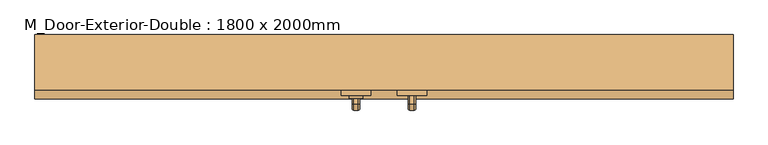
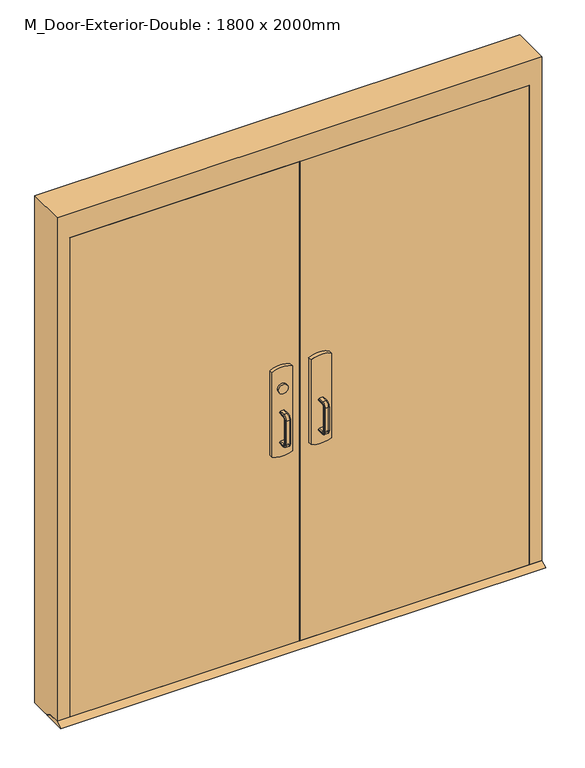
"""IFC4 building model written with IfcOpenShell, lengths in millimetres: door geometry, M_Door-Exterior-Double : 1800 x 2000mm."""

from ifc_helpers import new_model, si_unit, point, frame, frame_2d, origin, place, context, project, spatial, polyline, circle_curve, ellipse_curve, trimmed, segment, composite_curve, outline, extrude, faceted_brep, source, transform, mapped, element, save
from ifc_brep_helpers import plane_surface, cylinder_surface, revolved_surface, advanced_brep


def m_door_exterior_double_1800_x_2000mm_23919ed1(model_context):
    return source(origin(), model_context, "Body", "SolidModel", [
        extrude(outline(polyline([(-566.1333333, -112.75), (-76.2, -112.75), (-76.2, -119.1), (-566.1333333, -119.1), (-566.1333333, -112.75)])), frame((0.0, 0.0, 974.6), z_axis=(0.0, 0.0, 1.0), x_axis=(1.0, 0.0, 0.0)), (0.0, 0.0, 1.0), 50.8),
        advanced_brep(
        [(-12.7, -119.1, 1025.4), (-12.7, -119.1, 974.6), (-76.2, -119.1, 974.6), (-811.1, -119.1, 974.6), (-811.1, -119.1, 1025.4), (-76.2, -119.1, 1025.4), (-811.1, -150.85, 1025.4), (-811.1, -150.85, 974.6), (-76.2, -150.85, 974.6), (-76.2, -150.85, 911.1), (-57.15, -150.85, 892.05), (-31.75, -150.85, 892.05), (-12.7, -150.85, 911.1), (-12.7, -150.85, 1088.9), (-31.75, -150.85, 1107.95), (-57.15, -150.85, 1107.95), (-76.2, -150.85, 1088.9), (-76.2, -150.85, 1025.4), (-76.2, -122.2752467, 1025.4), (-12.7, -122.2752467, 1025.4), (-12.7, -127.2854269, 1088.9), (-12.7, -127.2854269, 911.1), (-12.7, -122.2752467, 974.6), (-76.2, -122.2752467, 974.6), (-76.2, -127.2854269, 1088.9), (-76.2, -127.2854269, 911.1), (-31.75, -128.788481, 1107.95), (-57.15, -128.788481, 1107.95), (-57.15, -128.788481, 892.05), (-31.75, -128.788481, 892.05)],
        [
            (0, 1),
            (1, 2),
            (2, 3),
            (3, 4),
            (4, 5),
            (5, 0),
            (6, 7),
            (7, 8),
            (8, 9),
            (9, 10, circle_curve(frame((-57.15, -150.85, 911.1), z_axis=(0.0, -1.0, 0.0), x_axis=(-1.0, 0.0, 0.0)), 19.05)),
            (10, 11),
            (11, 12, circle_curve(frame((-31.75, -150.85, 911.1), z_axis=(0.0, -1.0, 0.0), x_axis=(-1.0, 0.0, 0.0)), 19.05)),
            (12, 13),
            (13, 14, circle_curve(frame((-31.75, -150.85, 1088.9), z_axis=(0.0, -1.0, 0.0), x_axis=(-1.0, 0.0, 0.0)), 19.05)),
            (14, 15),
            (15, 16, circle_curve(frame((-57.15, -150.85, 1088.9), z_axis=(0.0, -1.0, 0.0), x_axis=(-1.0, 0.0, 0.0)), 19.05)),
            (16, 17),
            (17, 6),
            (4, 6),
            (17, 18),
            (18, 19),
            (19, 0),
            (19, 20),
            (20, 13),
            (12, 21),
            (21, 22),
            (22, 1),
            (7, 3),
            (22, 23),
            (23, 8),
            (16, 24),
            (24, 18),
            (23, 25),
            (25, 9),
            (14, 26),
            (26, 27),
            (27, 15),
            (10, 28),
            (28, 29),
            (29, 11),
            (25, 28, ellipse_curve(frame((-57.15, -127.2854269, 911.1), z_axis=(0.0, -0.9969018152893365, 0.07865602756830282), x_axis=(0.0, 0.07865602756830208, 0.9969018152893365)), 19.1092038, 19.05)),
            (27, 24, ellipse_curve(frame((-57.15, -127.2854269, 1088.9), z_axis=(0.0, -0.9969018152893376, -0.07865602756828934), x_axis=(0.0, 0.078656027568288, -0.9969018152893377)), 19.1092038, 19.05)),
            (20, 26, ellipse_curve(frame((-31.75, -127.2854269, 1088.9), z_axis=(0.0, -0.9969018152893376, -0.07865602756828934), x_axis=(0.0, 0.078656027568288, -0.9969018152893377)), 19.1092038, 19.05)),
            (29, 21, ellipse_curve(frame((-31.75, -127.2854269, 911.1), z_axis=(0.0, -0.9969018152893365, 0.07865602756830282), x_axis=(0.0, 0.07865602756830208, 0.9969018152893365)), 19.1092038, 19.05)),
        ],
        [
            plane_surface(frame((-12.7, -119.1, 1025.4), z_axis=(0.0, 1.0, 0.0), x_axis=(1.0, 0.0, 0.0))),
            plane_surface(frame((-12.7, -150.85, 1025.4), z_axis=(0.0, -1.0, 0.0), x_axis=(-1.0, 0.0, 0.0))),
            plane_surface(frame((-811.1, -119.1, 1025.4), z_axis=(0.0, 0.0, 1.0), x_axis=(0.0, -1.0, 0.0))),
            plane_surface(frame((-12.7, -119.1, 1025.4), z_axis=(1.0, 0.0, 0.0), x_axis=(0.0, -1.0, 0.0))),
            plane_surface(frame((-12.7, -119.1, 974.6), z_axis=(0.0, 0.0, -1.0), x_axis=(0.0, -1.0, 0.0))),
            plane_surface(frame((-811.1, -119.1, 974.6), z_axis=(-1.0, 0.0, 0.0), x_axis=(0.0, -1.0, 0.0))),
            plane_surface(frame((-76.2, -122.2752467, 911.1), z_axis=(-1.0, 0.0, 0.0), x_axis=(0.0, -1.0, 0.0))),
            plane_surface(frame((-57.15, -122.2752467, 1107.95), z_axis=(0.0, 0.0, 1.0), x_axis=(0.0, -1.0, 0.0))),
            plane_surface(frame((-31.75, -122.2752467, 892.05), z_axis=(0.0, 0.0, -1.0), x_axis=(0.0, -1.0, 0.0))),
            cylinder_surface(frame((-57.15, -150.85, 911.1), z_axis=(0.0, 1.0, 0.0), x_axis=(-1.0, 0.0, 0.0)), 19.05),
            cylinder_surface(frame((-57.15, -150.85, 1088.9), z_axis=(0.0, 1.0, 0.0), x_axis=(-1.0, 0.0, 0.0)), 19.05),
            cylinder_surface(frame((-31.75, -150.85, 1088.9), z_axis=(0.0, 1.0, 0.0), x_axis=(-1.0, 0.0, 0.0)), 19.05),
            cylinder_surface(frame((-31.75, -150.85, 911.1), z_axis=(0.0, 1.0, 0.0), x_axis=(-1.0, 0.0, 0.0)), 19.05),
            plane_surface(frame((-76.2, -122.2752467, 1025.4), z_axis=(0.0, 0.9969018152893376, 0.07865602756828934), x_axis=(1.0, 0.0, 0.0))),
            plane_surface(frame((-76.2, -128.788481, 892.05), z_axis=(0.0, 0.9969018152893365, -0.07865602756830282), x_axis=(1.0, 0.0, 0.0))),
        ],
        [
            (0, [[1, 2, 3, 4, 5, 6]]),
            (1, [[7, 8, 9, 10, 11, 12, 13, 14, 15, 16, 17, 18]]),
            (2, [[19, -18, 20, 21, 22, -6, -5]]),
            (3, [[-1, -22, 23, 24, -13, 25, 26, 27]]),
            (4, [[28, -3, -2, -27, 29, 30, -8]]),
            (5, [[-4, -28, -7, -19]]),
            (6, [[-17, 31, 32, -20]]),
            (6, [[-9, -30, 33, 34]]),
            (7, [[-15, 35, 36, 37]]),
            (8, [[-11, 38, 39, 40]]),
            (9, [[-10, -34, 41, -38]]),
            (10, [[-16, -37, 42, -31]]),
            (11, [[-14, -24, 43, -35]]),
            (12, [[-12, -40, 44, -25]]),
            (13, [[-21, -32, -42, -36, -43, -23]]),
            (14, [[-26, -44, -39, -41, -33, -29]]),
        ],
    ),
        extrude(outline(polyline([(-195.85, 15.0), (-150.85, 15.0), (-125.45, 0.0), (-221.25, 0.0), (-195.85, 15.0)])), frame((-950.0, 0.0, 0.0), z_axis=(1.0, 0.0, 0.0), x_axis=(0.0, 1.0, 0.0)), (0.0, 0.0, 1.0), 1900.0),
        extrude(outline(polyline([(566.1333333, -112.75), (566.1333333, -119.1), (76.2, -119.1), (76.2, -112.75), (566.1333333, -112.75)])), frame((0.0, 0.0, 974.6), z_axis=(0.0, 0.0, 1.0), x_axis=(1.0, 0.0, 0.0)), (0.0, 0.0, 1.0), 50.8),
        advanced_brep(
        [(12.7, -119.1, 1025.4), (76.2, -119.1, 1025.4), (811.1, -119.1, 1025.4), (811.1, -119.1, 974.6), (76.2, -119.1, 974.6), (12.7, -119.1, 974.6), (811.1, -150.85, 1025.4), (76.2, -150.85, 1025.4), (76.2, -150.85, 1088.9), (57.15, -150.85, 1107.95), (31.75, -150.85, 1107.95), (12.7, -150.85, 1088.9), (12.7, -150.85, 911.1), (31.75, -150.85, 892.05), (57.15, -150.85, 892.05), (76.2, -150.85, 911.1), (76.2, -150.85, 974.6), (811.1, -150.85, 974.6), (12.7, -122.2752467, 1025.4), (76.2, -122.2752467, 1025.4), (12.7, -122.2752467, 974.6), (12.7, -127.2854269, 911.1), (12.7, -127.2854269, 1088.9), (76.2, -122.2752467, 974.6), (76.2, -127.2854269, 1088.9), (76.2, -127.2854269, 911.1), (57.15, -128.788481, 1107.95), (31.75, -128.788481, 1107.95), (31.75, -128.788481, 892.05), (57.15, -128.788481, 892.05)],
        [
            (0, 1),
            (1, 2),
            (2, 3),
            (3, 4),
            (4, 5),
            (5, 0),
            (6, 7),
            (7, 8),
            (8, 9, circle_curve(frame((57.15, -150.85, 1088.9), z_axis=(0.0, -1.0, 0.0), x_axis=(1.0, 0.0, 0.0)), 19.05)),
            (9, 10),
            (10, 11, circle_curve(frame((31.75, -150.85, 1088.9), z_axis=(0.0, -1.0, 0.0), x_axis=(1.0, 0.0, 0.0)), 19.05)),
            (11, 12),
            (12, 13, circle_curve(frame((31.75, -150.85, 911.1), z_axis=(0.0, -1.0, 0.0), x_axis=(1.0, 0.0, 0.0)), 19.05)),
            (13, 14),
            (14, 15, circle_curve(frame((57.15, -150.85, 911.1), z_axis=(0.0, -1.0, 0.0), x_axis=(1.0, 0.0, 0.0)), 19.05)),
            (15, 16),
            (16, 17),
            (17, 6),
            (0, 18),
            (18, 19),
            (19, 7),
            (6, 2),
            (5, 20),
            (20, 21),
            (21, 12),
            (11, 22),
            (22, 18),
            (16, 23),
            (23, 20),
            (3, 17),
            (19, 24),
            (24, 8),
            (15, 25),
            (25, 23),
            (9, 26),
            (26, 27),
            (27, 10),
            (13, 28),
            (28, 29),
            (29, 14),
            (29, 25, ellipse_curve(frame((57.15, -127.2854269, 911.1), z_axis=(0.0, -0.9969018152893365, 0.07865602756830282), x_axis=(0.0, 0.07865602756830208, 0.9969018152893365)), 19.1092038, 19.05)),
            (24, 26, ellipse_curve(frame((57.15, -127.2854269, 1088.9), z_axis=(0.0, -0.9969018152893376, -0.07865602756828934), x_axis=(0.0, 0.078656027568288, -0.9969018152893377)), 19.1092038, 19.05)),
            (27, 22, ellipse_curve(frame((31.75, -127.2854269, 1088.9), z_axis=(0.0, -0.9969018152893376, -0.07865602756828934), x_axis=(0.0, 0.078656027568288, -0.9969018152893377)), 19.1092038, 19.05)),
            (21, 28, ellipse_curve(frame((31.75, -127.2854269, 911.1), z_axis=(0.0, -0.9969018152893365, 0.07865602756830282), x_axis=(0.0, 0.07865602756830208, 0.9969018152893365)), 19.1092038, 19.05)),
        ],
        [
            plane_surface(frame((12.7, -119.1, 1025.4), z_axis=(0.0, 1.0, 0.0), x_axis=(-1.0, 0.0, 0.0))),
            plane_surface(frame((12.7, -150.85, 1025.4), z_axis=(0.0, -1.0, 0.0), x_axis=(1.0, 0.0, 0.0))),
            plane_surface(frame((811.1, -119.1, 1025.4), z_axis=(0.0, 0.0, 1.0), x_axis=(0.0, -1.0, 0.0))),
            plane_surface(frame((12.7, -119.1, 1025.4), z_axis=(-1.0, 0.0, 0.0), x_axis=(0.0, -1.0, 0.0))),
            plane_surface(frame((12.7, -119.1, 974.6), z_axis=(0.0, 0.0, -1.0), x_axis=(0.0, -1.0, 0.0))),
            plane_surface(frame((811.1, -119.1, 974.6), z_axis=(1.0, 0.0, 0.0), x_axis=(0.0, -1.0, 0.0))),
            plane_surface(frame((76.2, -122.2752467, 911.1), z_axis=(1.0, 0.0, 0.0), x_axis=(0.0, -1.0, 0.0))),
            plane_surface(frame((57.15, -122.2752467, 1107.95), z_axis=(0.0, 0.0, 1.0), x_axis=(0.0, -1.0, 0.0))),
            plane_surface(frame((31.75, -122.2752467, 892.05), z_axis=(0.0, 0.0, -1.0), x_axis=(0.0, -1.0, 0.0))),
            cylinder_surface(frame((57.15, -150.85, 911.1), z_axis=(0.0, 1.0, 0.0), x_axis=(1.0, 0.0, 0.0)), 19.05),
            cylinder_surface(frame((57.15, -150.85, 1088.9), z_axis=(0.0, 1.0, 0.0), x_axis=(1.0, 0.0, 0.0)), 19.05),
            cylinder_surface(frame((31.75, -150.85, 1088.9), z_axis=(0.0, 1.0, 0.0), x_axis=(1.0, 0.0, 0.0)), 19.05),
            cylinder_surface(frame((31.75, -150.85, 911.1), z_axis=(0.0, 1.0, 0.0), x_axis=(1.0, 0.0, 0.0)), 19.05),
            plane_surface(frame((76.2, -122.2752467, 1025.4), z_axis=(0.0, 0.9969018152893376, 0.07865602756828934), x_axis=(-1.0, 0.0, 0.0))),
            plane_surface(frame((76.2, -128.788481, 892.05), z_axis=(0.0, 0.9969018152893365, -0.07865602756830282), x_axis=(-1.0, 0.0, 0.0))),
        ],
        [
            (0, [[1, 2, 3, 4, 5, 6]]),
            (1, [[7, 8, 9, 10, 11, 12, 13, 14, 15, 16, 17, 18]]),
            (2, [[-2, -1, 19, 20, 21, -7, 22]]),
            (3, [[23, 24, 25, -12, 26, 27, -19, -6]]),
            (4, [[-17, 28, 29, -23, -5, -4, 30]]),
            (5, [[-22, -18, -30, -3]]),
            (6, [[-21, 31, 32, -8]]),
            (6, [[33, 34, -28, -16]]),
            (7, [[35, 36, 37, -10]]),
            (8, [[38, 39, 40, -14]]),
            (9, [[-40, 41, -33, -15]]),
            (10, [[-32, 42, -35, -9]]),
            (11, [[-37, 43, -26, -11]]),
            (12, [[-25, 44, -38, -13]]),
            (13, [[-27, -43, -36, -42, -31, -20]]),
            (14, [[-29, -34, -41, -39, -44, -24]]),
        ],
    ),
        advanced_brep(
        [(66.2, -208.55, 1001.190625), (69.771875, -208.55, 1004.7625), (82.628125, -208.55, 1004.7625), (86.2, -208.55, 1001.190625), (86.2, -208.55, 998.8090406), (82.6284594, -208.55, 995.2375), (69.771875, -208.55, 995.2375), (66.2, -208.55, 998.809375), (66.2, -208.55, 874.609375), (66.2, -208.55, 876.990625), (69.771875, -208.55, 880.5625), (82.6284594, -208.55, 880.5625), (86.2, -208.55, 876.9909594), (86.2, -208.55, 874.609375), (82.628125, -208.55, 871.0375), (69.771875, -208.55, 871.0375), (66.2, -233.95, 998.809375), (66.2, -245.459375, 987.3), (66.2, -245.459375, 888.5), (66.2, -233.95, 876.990625), (66.2, -233.95, 874.609375), (66.2, -247.840625, 888.5), (66.2, -247.840625, 987.3), (66.2, -233.95, 1001.190625), (69.771875, -233.95, 995.2375), (82.6284594, -233.95, 995.2375), (86.2, -233.95, 998.8090406), (86.2, -233.95, 1001.190625), (86.2, -247.840625, 987.3), (86.2, -247.840625, 888.5), (86.2, -233.95, 874.609375), (86.2, -233.95, 876.9909594), (86.2, -245.4590406, 888.5), (86.2, -245.4590406, 987.3), (82.628125, -233.95, 1004.7625), (69.771875, -233.95, 1004.7625), (69.771875, -241.8875, 987.3), (82.6284594, -241.8875, 987.3), (82.628125, -251.4125, 987.3), (69.771875, -251.4125, 987.3), (69.771875, -241.8875, 888.5), (82.6284594, -241.8875, 888.5), (82.628125, -251.4125, 888.5), (69.771875, -251.4125, 888.5), (69.771875, -233.95, 880.5625), (82.6284594, -233.95, 880.5625), (82.628125, -233.95, 871.0375), (69.771875, -233.95, 871.0375)],
        [
            (0, 1, circle_curve(frame((69.771875, -208.55, 1001.190625), z_axis=(0.0, 1.0, 0.0), x_axis=(0.0, 0.0, 1.0)), 3.571875)),
            (1, 2),
            (2, 3, circle_curve(frame((82.628125, -208.55, 1001.190625), z_axis=(0.0, 1.0, 0.0), x_axis=(0.0, 0.0, 1.0)), 3.571875)),
            (3, 4),
            (4, 5, circle_curve(frame((82.6284594, -208.55, 998.8090406), z_axis=(0.0, 1.0, 0.0), x_axis=(0.0, 0.0, 1.0)), 3.5715406)),
            (5, 6),
            (6, 7, circle_curve(frame((69.771875, -208.55, 998.809375), z_axis=(0.0, 1.0, 0.0), x_axis=(0.0, 0.0, 1.0)), 3.571875)),
            (7, 0),
            (8, 9),
            (9, 10, circle_curve(frame((69.771875, -208.55, 876.990625), z_axis=(0.0, 1.0, 0.0), x_axis=(0.0, 0.0, -1.0)), 3.571875)),
            (10, 11),
            (11, 12, circle_curve(frame((82.6284594, -208.55, 876.9909594), z_axis=(0.0, 1.0, 0.0), x_axis=(0.0, 0.0, -1.0)), 3.5715406)),
            (12, 13),
            (13, 14, circle_curve(frame((82.628125, -208.55, 874.609375), z_axis=(0.0, 1.0, 0.0), x_axis=(0.0, 0.0, -1.0)), 3.571875)),
            (14, 15),
            (15, 8, circle_curve(frame((69.771875, -208.55, 874.609375), z_axis=(0.0, 1.0, 0.0), x_axis=(0.0, 0.0, -1.0)), 3.571875)),
            (7, 16),
            (16, 17, circle_curve(frame((66.2, -233.95, 987.3), z_axis=(1.0, 0.0, 0.0), x_axis=(0.0, 0.0, 1.0)), 11.509375)),
            (17, 18),
            (18, 19, circle_curve(frame((66.2, -233.95, 888.5), z_axis=(1.0, 0.0, 0.0), x_axis=(0.0, -1.0, 0.0)), 11.509375)),
            (19, 9),
            (8, 20),
            (20, 21, circle_curve(frame((66.2, -233.95, 888.5), z_axis=(-1.0, 0.0, 0.0), x_axis=(0.0, -1.0, 0.0)), 13.890625)),
            (21, 22),
            (22, 23, circle_curve(frame((66.2, -233.95, 987.3), z_axis=(-1.0, 0.0, 0.0), x_axis=(0.0, 0.0, 1.0)), 13.890625)),
            (23, 0),
            (6, 24),
            (24, 16, circle_curve(frame((69.771875, -233.95, 998.809375), z_axis=(0.0, 1.0, 0.0), x_axis=(0.0, 0.0, 1.0)), 3.571875)),
            (5, 25),
            (25, 24),
            (4, 26),
            (26, 25, circle_curve(frame((82.6284594, -233.95, 998.8090406), z_axis=(0.0, 1.0, 0.0), x_axis=(0.0, 0.0, 1.0)), 3.5715406)),
            (3, 27),
            (27, 28, circle_curve(frame((86.2, -233.95, 987.3), z_axis=(1.0, 0.0, 0.0), x_axis=(0.0, 0.0, 1.0)), 13.890625)),
            (28, 29),
            (29, 30, circle_curve(frame((86.2, -233.95, 888.5), z_axis=(1.0, 0.0, 0.0), x_axis=(0.0, -1.0, 0.0)), 13.890625)),
            (30, 13),
            (12, 31),
            (31, 32, circle_curve(frame((86.2, -233.95, 888.5), z_axis=(-1.0, 0.0, 0.0), x_axis=(0.0, -1.0, 0.0)), 11.5090406)),
            (32, 33),
            (33, 26, circle_curve(frame((86.2, -233.95, 987.3), z_axis=(-1.0, 0.0, 0.0), x_axis=(0.0, 0.0, 1.0)), 11.5090406)),
            (2, 34),
            (34, 27, circle_curve(frame((82.628125, -233.95, 1001.190625), z_axis=(0.0, 1.0, 0.0), x_axis=(0.0, 0.0, 1.0)), 3.571875)),
            (1, 35),
            (35, 34),
            (23, 35, circle_curve(frame((69.771875, -233.95, 1001.190625), z_axis=(0.0, 1.0, 0.0), x_axis=(0.0, 0.0, 1.0)), 3.571875)),
            (36, 17, circle_curve(frame((69.771875, -245.459375, 987.3), z_axis=(0.0, 0.0, 1.0), x_axis=(0.0, -1.0, 0.0)), 3.571875)),
            (24, 36, circle_curve(frame((69.771875, -233.95, 987.3), z_axis=(1.0, 0.0, 0.0), x_axis=(0.0, 0.0, 1.0)), 7.9375)),
            (37, 36),
            (25, 37, circle_curve(frame((82.6284594, -233.95, 987.3), z_axis=(1.0, 0.0, 0.0), x_axis=(0.0, 0.0, 1.0)), 7.9375)),
            (33, 37, circle_curve(frame((82.6284594, -245.4590406, 987.3), z_axis=(0.0, 0.0, 1.0), x_axis=(0.0, -1.0, 0.0)), 3.5715406)),
            (38, 28, circle_curve(frame((82.628125, -247.840625, 987.3), z_axis=(0.0, 0.0, 1.0), x_axis=(0.0, -1.0, 0.0)), 3.571875)),
            (34, 38, circle_curve(frame((82.628125, -233.95, 987.3), z_axis=(1.0, 0.0, 0.0), x_axis=(0.0, 0.0, 1.0)), 17.4625)),
            (39, 38),
            (35, 39, circle_curve(frame((69.771875, -233.95, 987.3), z_axis=(1.0, 0.0, 0.0), x_axis=(0.0, 0.0, 1.0)), 17.4625)),
            (22, 39, circle_curve(frame((69.771875, -247.840625, 987.3), z_axis=(0.0, 0.0, 1.0), x_axis=(0.0, -1.0, 0.0)), 3.571875)),
            (36, 40),
            (40, 18, circle_curve(frame((69.771875, -245.459375, 888.5), z_axis=(0.0, 0.0, 1.0), x_axis=(0.0, -1.0, 0.0)), 3.571875)),
            (37, 41),
            (41, 40),
            (32, 41, circle_curve(frame((82.6284594, -245.4590406, 888.5), z_axis=(0.0, 0.0, 1.0), x_axis=(0.0, -1.0, 0.0)), 3.5715406)),
            (38, 42),
            (42, 29, circle_curve(frame((82.628125, -247.840625, 888.5), z_axis=(0.0, 0.0, 1.0), x_axis=(0.0, -1.0, 0.0)), 3.571875)),
            (39, 43),
            (43, 42),
            (21, 43, circle_curve(frame((69.771875, -247.840625, 888.5), z_axis=(0.0, 0.0, 1.0), x_axis=(0.0, -1.0, 0.0)), 3.571875)),
            (44, 19, circle_curve(frame((69.771875, -233.95, 876.990625), z_axis=(0.0, -1.0, 0.0), x_axis=(0.0, 0.0, -1.0)), 3.571875)),
            (40, 44, circle_curve(frame((69.771875, -233.95, 888.5), z_axis=(1.0, 0.0, 0.0), x_axis=(0.0, -1.0, 0.0)), 7.9375)),
            (45, 44),
            (41, 45, circle_curve(frame((82.6284594, -233.95, 888.5), z_axis=(1.0, 0.0, 0.0), x_axis=(0.0, -1.0, 0.0)), 7.9375)),
            (31, 45, circle_curve(frame((82.6284594, -233.95, 876.9909594), z_axis=(0.0, -1.0, 0.0), x_axis=(0.0, 0.0, -1.0)), 3.5715406)),
            (46, 30, circle_curve(frame((82.628125, -233.95, 874.609375), z_axis=(0.0, -1.0, 0.0), x_axis=(0.0, 0.0, -1.0)), 3.571875)),
            (42, 46, circle_curve(frame((82.628125, -233.95, 888.5), z_axis=(1.0, 0.0, 0.0), x_axis=(0.0, -1.0, 0.0)), 17.4625)),
            (47, 46),
            (43, 47, circle_curve(frame((69.771875, -233.95, 888.5), z_axis=(1.0, 0.0, 0.0), x_axis=(0.0, -1.0, 0.0)), 17.4625)),
            (20, 47, circle_curve(frame((69.771875, -233.95, 874.609375), z_axis=(0.0, -1.0, 0.0), x_axis=(0.0, 0.0, -1.0)), 3.571875)),
            (44, 10),
            (45, 11),
            (46, 14),
            (47, 15),
        ],
        [
            plane_surface(frame((76.2, -208.55, 1000.0), z_axis=(0.0, 1.0, 0.0), x_axis=(1.0, 0.0, 0.0))),
            plane_surface(frame((76.2, -208.55, 875.8), z_axis=(0.0, 1.0, 0.0), x_axis=(1.0, 0.0, 0.0))),
            plane_surface(frame((66.2, -208.55, 1001.190625), z_axis=(-1.0, 0.0, 0.0), x_axis=(0.0, -1.0, 0.0))),
            cylinder_surface(frame((69.771875, -208.55, 998.809375), z_axis=(0.0, 1.0, 0.0), x_axis=(0.0, 0.0, 1.0)), 3.571875),
            plane_surface(frame((69.771875, -208.55, 995.2375), z_axis=(0.0, 0.0, -1.0), x_axis=(0.0, -1.0, 0.0))),
            cylinder_surface(frame((82.6284594, -208.55, 998.8090406), z_axis=(0.0, 1.0, 0.0), x_axis=(0.0, 0.0, 1.0)), 3.5715406),
            plane_surface(frame((86.2, -208.55, 998.8090406), z_axis=(1.0, 0.0, 0.0), x_axis=(0.0, -1.0, 0.0))),
            cylinder_surface(frame((82.628125, -208.55, 1001.190625), z_axis=(0.0, 1.0, 0.0), x_axis=(0.0, 0.0, 1.0)), 3.571875),
            plane_surface(frame((82.628125, -208.55, 1004.7625), z_axis=(0.0, 0.0, 1.0), x_axis=(0.0, -1.0, 0.0))),
            cylinder_surface(frame((69.771875, -208.55, 1001.190625), z_axis=(0.0, 1.0, 0.0), x_axis=(0.0, 0.0, 1.0)), 3.571875),
            revolved_surface(trimmed(ellipse_curve(frame((69.771875, -233.95, 998.809375), z_axis=(0.0, -1.0, 0.0), x_axis=(0.0, 0.0, 1.0)), 3.571875, 3.571875), [point((66.2, -233.95, 998.809375))], [point((69.771875, -233.95, 995.2375))], True, "CARTESIAN"), (76.2, -233.95, 987.3), (-1.0, 0.0, 0.0)),
            revolved_surface(polyline([(69.771875, -233.95, 995.2375), (82.6284594, -233.95, 995.2375)]), (76.2, -233.95, 987.3), (-1.0, 0.0, 0.0)),
            revolved_surface(trimmed(ellipse_curve(frame((82.6284594, -233.95, 998.8090406), z_axis=(0.0, -1.0, 0.0), x_axis=(0.0, 0.0, 1.0)), 3.5715406, 3.5715406), [point((82.6284594, -233.95, 995.2375))], [point((86.2, -233.95, 998.8090406))], True, "CARTESIAN"), (76.2, -233.95, 987.3), (-1.0, 0.0, 0.0)),
            revolved_surface(trimmed(ellipse_curve(frame((82.628125, -233.95, 1001.190625), z_axis=(0.0, -1.0, 0.0), x_axis=(0.0, 0.0, 1.0)), 3.571875, 3.571875), [point((86.2, -233.95, 1001.190625))], [point((82.628125, -233.95, 1004.7625))], True, "CARTESIAN"), (76.2, -233.95, 987.3), (-1.0, 0.0, 0.0)),
            cylinder_surface(frame((76.2, -233.95, 987.3), z_axis=(-1.0, 0.0, 0.0), x_axis=(0.0, 0.0, 1.0)), 17.4625),
            revolved_surface(trimmed(ellipse_curve(frame((69.771875, -233.95, 1001.190625), z_axis=(0.0, -1.0, 0.0), x_axis=(0.0, 0.0, 1.0)), 3.571875, 3.571875), [point((69.771875, -233.95, 1004.7625))], [point((66.2, -233.95, 1001.190625))], True, "CARTESIAN"), (76.2, -233.95, 987.3), (-1.0, 0.0, 0.0)),
            cylinder_surface(frame((69.771875, -245.459375, 987.3), z_axis=(0.0, 0.0, 1.0), x_axis=(0.0, -1.0, 0.0)), 3.571875),
            plane_surface(frame((69.771875, -241.8875, 987.3), z_axis=(0.0, 1.0, 0.0), x_axis=(0.0, 0.0, -1.0))),
            cylinder_surface(frame((82.6284594, -245.4590406, 987.3), z_axis=(0.0, 0.0, 1.0), x_axis=(0.0, -1.0, 0.0)), 3.5715406),
            cylinder_surface(frame((82.628125, -247.840625, 987.3), z_axis=(0.0, 0.0, 1.0), x_axis=(0.0, -1.0, 0.0)), 3.571875),
            plane_surface(frame((82.628125, -251.4125, 987.3), z_axis=(0.0, -1.0, 0.0), x_axis=(0.0, 0.0, -1.0))),
            cylinder_surface(frame((69.771875, -247.840625, 987.3), z_axis=(0.0, 0.0, 1.0), x_axis=(0.0, -1.0, 0.0)), 3.571875),
            revolved_surface(trimmed(ellipse_curve(frame((69.771875, -245.459375, 888.5), z_axis=(0.0, 0.0, -1.0), x_axis=(0.0, -1.0, 0.0)), 3.571875, 3.571875), [point((66.2, -245.459375, 888.5))], [point((69.771875, -241.8875, 888.5))], True, "CARTESIAN"), (76.2, -233.95, 888.5), (-1.0, 0.0, 0.0)),
            revolved_surface(polyline([(69.771875, -241.8875, 888.5), (82.6284594, -241.8875, 888.5)]), (76.2, -233.95, 888.5), (-1.0, 0.0, 0.0)),
            revolved_surface(trimmed(ellipse_curve(frame((82.6284594, -245.4590406, 888.5), z_axis=(0.0, 0.0, -1.0), x_axis=(0.0, -1.0, 0.0)), 3.5715406, 3.5715406), [point((82.6284594, -241.8875, 888.5))], [point((86.2, -245.4590406, 888.5))], True, "CARTESIAN"), (76.2, -233.95, 888.5), (-1.0, 0.0, 0.0)),
            revolved_surface(trimmed(ellipse_curve(frame((82.628125, -247.840625, 888.5), z_axis=(0.0, 0.0, -1.0), x_axis=(0.0, -1.0, 0.0)), 3.571875, 3.571875), [point((86.2, -247.840625, 888.5))], [point((82.628125, -251.4125, 888.5))], True, "CARTESIAN"), (76.2, -233.95, 888.5), (-1.0, 0.0, 0.0)),
            cylinder_surface(frame((76.2, -233.95, 888.5), z_axis=(-1.0, 0.0, 0.0), x_axis=(0.0, -1.0, 0.0)), 17.4625),
            revolved_surface(trimmed(ellipse_curve(frame((69.771875, -247.840625, 888.5), z_axis=(0.0, 0.0, -1.0), x_axis=(0.0, -1.0, 0.0)), 3.571875, 3.571875), [point((69.771875, -251.4125, 888.5))], [point((66.2, -247.840625, 888.5))], True, "CARTESIAN"), (76.2, -233.95, 888.5), (-1.0, 0.0, 0.0)),
            cylinder_surface(frame((69.771875, -233.95, 876.990625), z_axis=(0.0, -1.0, 0.0), x_axis=(0.0, 0.0, -1.0)), 3.571875),
            plane_surface(frame((69.771875, -233.95, 880.5625), z_axis=(0.0, 0.0, 1.0), x_axis=(0.0, 1.0, 0.0))),
            cylinder_surface(frame((82.6284594, -233.95, 876.9909594), z_axis=(0.0, -1.0, 0.0), x_axis=(0.0, 0.0, -1.0)), 3.5715406),
            cylinder_surface(frame((82.628125, -233.95, 874.609375), z_axis=(0.0, -1.0, 0.0), x_axis=(0.0, 0.0, -1.0)), 3.571875),
            plane_surface(frame((82.628125, -233.95, 871.0375), z_axis=(0.0, 0.0, -1.0), x_axis=(0.0, 1.0, 0.0))),
            cylinder_surface(frame((69.771875, -233.95, 874.609375), z_axis=(0.0, -1.0, 0.0), x_axis=(0.0, 0.0, -1.0)), 3.571875),
        ],
        [
            (0, [[1, 2, 3, 4, 5, 6, 7, 8]]),
            (1, [[9, 10, 11, 12, 13, 14, 15, 16]]),
            (2, [[17, 18, 19, 20, 21, -9, 22, 23, 24, 25, 26, -8]]),
            (3, [[27, 28, -17, -7]]),
            (4, [[29, 30, -27, -6]]),
            (5, [[31, 32, -29, -5]]),
            (6, [[33, 34, 35, 36, 37, -13, 38, 39, 40, 41, -31, -4]]),
            (7, [[42, 43, -33, -3]]),
            (8, [[44, 45, -42, -2]]),
            (9, [[-26, 46, -44, -1]]),
            (10, [[47, -18, -28, 48]]),
            (11, [[49, -48, -30, 50]]),
            (12, [[51, -50, -32, -41]]),
            (13, [[52, -34, -43, 53]]),
            (14, [[54, -53, -45, 55]]),
            (15, [[56, -55, -46, -25]]),
            (16, [[57, 58, -19, -47]]),
            (17, [[59, 60, -57, -49]]),
            (18, [[-40, 61, -59, -51]]),
            (19, [[62, 63, -35, -52]]),
            (20, [[64, 65, -62, -54]]),
            (21, [[-24, 66, -64, -56]]),
            (22, [[67, -20, -58, 68]]),
            (23, [[69, -68, -60, 70]]),
            (24, [[71, -70, -61, -39]]),
            (25, [[72, -36, -63, 73]]),
            (26, [[74, -73, -65, 75]]),
            (27, [[76, -75, -66, -23]]),
            (28, [[77, -10, -21, -67]]),
            (29, [[78, -11, -77, -69]]),
            (30, [[-38, -12, -78, -71]]),
            (31, [[79, -14, -37, -72]]),
            (32, [[80, -15, -79, -74]]),
            (33, [[-22, -16, -80, -76]]),
        ],
    ),
        extrude(outline(composite_curve([segment(trimmed(circle_curve(frame_2d((1094.2338574, 76.2)), 90.1286291), [point((1175.0, 116.2))], [point((1175.0, 36.2))], False, "CARTESIAN"), True, "CONTINUOUS"), segment(polyline([(1175.0, 36.2), (825.0, 36.2)]), True, "CONTINUOUS"), segment(trimmed(circle_curve(frame_2d((905.7661426, 76.2)), 90.1286291), [point((825.0, 36.2))], [point((825.0, 116.2))], False, "CARTESIAN"), True, "CONTINUOUS"), segment(polyline([(825.0, 116.2), (1175.0, 116.2)]), True, "CONTINUOUS")], self_intersect=False)), frame((0.0, -210.85, 0.0), z_axis=(0.0, 1.0, 0.0), x_axis=(0.0, 0.0, 1.0)), (0.0, 0.0, 1.0), 15.0),
        advanced_brep(
        [(-86.2, -208.55, 1001.190625), (-82.628125, -208.55, 1004.7625), (-69.771875, -208.55, 1004.7625), (-66.2, -208.55, 1001.190625), (-66.2, -208.55, 998.8090406), (-69.7715406, -208.55, 995.2375), (-82.628125, -208.55, 995.2375), (-86.2, -208.55, 998.809375), (-86.2, -208.55, 874.609375), (-86.2, -208.55, 876.990625), (-82.628125, -208.55, 880.5625), (-69.7715406, -208.55, 880.5625), (-66.2, -208.55, 876.9909594), (-66.2, -208.55, 874.609375), (-69.771875, -208.55, 871.0375), (-82.628125, -208.55, 871.0375), (-86.2, -233.95, 998.809375), (-86.2, -245.459375, 987.3), (-86.2, -245.459375, 888.5), (-86.2, -233.95, 876.990625), (-86.2, -233.95, 874.609375), (-86.2, -247.840625, 888.5), (-86.2, -247.840625, 987.3), (-86.2, -233.95, 1001.190625), (-82.628125, -233.95, 995.2375), (-69.7715406, -233.95, 995.2375), (-66.2, -233.95, 998.8090406), (-66.2, -233.95, 1001.190625), (-66.2, -247.840625, 987.3), (-66.2, -247.840625, 888.5), (-66.2, -233.95, 874.609375), (-66.2, -233.95, 876.9909594), (-66.2, -245.4590406, 888.5), (-66.2, -245.4590406, 987.3), (-69.771875, -233.95, 1004.7625), (-82.628125, -233.95, 1004.7625), (-82.628125, -241.8875, 987.3), (-69.7715406, -241.8875, 987.3), (-69.771875, -251.4125, 987.3), (-82.628125, -251.4125, 987.3), (-82.628125, -241.8875, 888.5), (-69.7715406, -241.8875, 888.5), (-69.771875, -251.4125, 888.5), (-82.628125, -251.4125, 888.5), (-82.628125, -233.95, 880.5625), (-69.7715406, -233.95, 880.5625), (-69.771875, -233.95, 871.0375), (-82.628125, -233.95, 871.0375)],
        [
            (0, 1, circle_curve(frame((-82.628125, -208.55, 1001.190625), z_axis=(0.0, 1.0, 0.0), x_axis=(0.0, 0.0, 1.0)), 3.571875)),
            (1, 2),
            (2, 3, circle_curve(frame((-69.771875, -208.55, 1001.190625), z_axis=(0.0, 1.0, 0.0), x_axis=(0.0, 0.0, 1.0)), 3.571875)),
            (3, 4),
            (4, 5, circle_curve(frame((-69.7715406, -208.55, 998.8090406), z_axis=(0.0, 1.0, 0.0), x_axis=(0.0, 0.0, 1.0)), 3.5715406)),
            (5, 6),
            (6, 7, circle_curve(frame((-82.628125, -208.55, 998.809375), z_axis=(0.0, 1.0, 0.0), x_axis=(0.0, 0.0, 1.0)), 3.571875)),
            (7, 0),
            (8, 9),
            (9, 10, circle_curve(frame((-82.628125, -208.55, 876.990625), z_axis=(0.0, 1.0, 0.0), x_axis=(0.0, 0.0, -1.0)), 3.571875)),
            (10, 11),
            (11, 12, circle_curve(frame((-69.7715406, -208.55, 876.9909594), z_axis=(0.0, 1.0, 0.0), x_axis=(0.0, 0.0, -1.0)), 3.5715406)),
            (12, 13),
            (13, 14, circle_curve(frame((-69.771875, -208.55, 874.609375), z_axis=(0.0, 1.0, 0.0), x_axis=(0.0, 0.0, -1.0)), 3.571875)),
            (14, 15),
            (15, 8, circle_curve(frame((-82.628125, -208.55, 874.609375), z_axis=(0.0, 1.0, 0.0), x_axis=(0.0, 0.0, -1.0)), 3.571875)),
            (7, 16),
            (16, 17, circle_curve(frame((-86.2, -233.95, 987.3), z_axis=(1.0, 0.0, 0.0), x_axis=(0.0, 0.0, 1.0)), 11.509375)),
            (17, 18),
            (18, 19, circle_curve(frame((-86.2, -233.95, 888.5), z_axis=(1.0, 0.0, 0.0), x_axis=(0.0, -1.0, 0.0)), 11.509375)),
            (19, 9),
            (8, 20),
            (20, 21, circle_curve(frame((-86.2, -233.95, 888.5), z_axis=(-1.0, 0.0, 0.0), x_axis=(0.0, -1.0, 0.0)), 13.890625)),
            (21, 22),
            (22, 23, circle_curve(frame((-86.2, -233.95, 987.3), z_axis=(-1.0, 0.0, 0.0), x_axis=(0.0, 0.0, 1.0)), 13.890625)),
            (23, 0),
            (6, 24),
            (24, 16, circle_curve(frame((-82.628125, -233.95, 998.809375), z_axis=(0.0, 1.0, 0.0), x_axis=(0.0, 0.0, 1.0)), 3.571875)),
            (5, 25),
            (25, 24),
            (4, 26),
            (26, 25, circle_curve(frame((-69.7715406, -233.95, 998.8090406), z_axis=(0.0, 1.0, 0.0), x_axis=(0.0, 0.0, 1.0)), 3.5715406)),
            (3, 27),
            (27, 28, circle_curve(frame((-66.2, -233.95, 987.3), z_axis=(1.0, 0.0, 0.0), x_axis=(0.0, 0.0, 1.0)), 13.890625)),
            (28, 29),
            (29, 30, circle_curve(frame((-66.2, -233.95, 888.5), z_axis=(1.0, 0.0, 0.0), x_axis=(0.0, -1.0, 0.0)), 13.890625)),
            (30, 13),
            (12, 31),
            (31, 32, circle_curve(frame((-66.2, -233.95, 888.5), z_axis=(-1.0, 0.0, 0.0), x_axis=(0.0, -1.0, 0.0)), 11.5090406)),
            (32, 33),
            (33, 26, circle_curve(frame((-66.2, -233.95, 987.3), z_axis=(-1.0, 0.0, 0.0), x_axis=(0.0, 0.0, 1.0)), 11.5090406)),
            (2, 34),
            (34, 27, circle_curve(frame((-69.771875, -233.95, 1001.190625), z_axis=(0.0, 1.0, 0.0), x_axis=(0.0, 0.0, 1.0)), 3.571875)),
            (1, 35),
            (35, 34),
            (23, 35, circle_curve(frame((-82.628125, -233.95, 1001.190625), z_axis=(0.0, 1.0, 0.0), x_axis=(0.0, 0.0, 1.0)), 3.571875)),
            (36, 17, circle_curve(frame((-82.628125, -245.459375, 987.3), z_axis=(0.0, 0.0, 1.0), x_axis=(0.0, -1.0, 0.0)), 3.571875)),
            (24, 36, circle_curve(frame((-82.628125, -233.95, 987.3), z_axis=(1.0, 0.0, 0.0), x_axis=(0.0, 0.0, 1.0)), 7.9375)),
            (37, 36),
            (25, 37, circle_curve(frame((-69.7715406, -233.95, 987.3), z_axis=(1.0, 0.0, 0.0), x_axis=(0.0, 0.0, 1.0)), 7.9375)),
            (33, 37, circle_curve(frame((-69.7715406, -245.4590406, 987.3), z_axis=(0.0, 0.0, 1.0), x_axis=(0.0, -1.0, 0.0)), 3.5715406)),
            (38, 28, circle_curve(frame((-69.771875, -247.840625, 987.3), z_axis=(0.0, 0.0, 1.0), x_axis=(0.0, -1.0, 0.0)), 3.571875)),
            (34, 38, circle_curve(frame((-69.771875, -233.95, 987.3), z_axis=(1.0, 0.0, 0.0), x_axis=(0.0, 0.0, 1.0)), 17.4625)),
            (39, 38),
            (35, 39, circle_curve(frame((-82.628125, -233.95, 987.3), z_axis=(1.0, 0.0, 0.0), x_axis=(0.0, 0.0, 1.0)), 17.4625)),
            (22, 39, circle_curve(frame((-82.628125, -247.840625, 987.3), z_axis=(0.0, 0.0, 1.0), x_axis=(0.0, -1.0, 0.0)), 3.571875)),
            (36, 40),
            (40, 18, circle_curve(frame((-82.628125, -245.459375, 888.5), z_axis=(0.0, 0.0, 1.0), x_axis=(0.0, -1.0, 0.0)), 3.571875)),
            (37, 41),
            (41, 40),
            (32, 41, circle_curve(frame((-69.7715406, -245.4590406, 888.5), z_axis=(0.0, 0.0, 1.0), x_axis=(0.0, -1.0, 0.0)), 3.5715406)),
            (38, 42),
            (42, 29, circle_curve(frame((-69.771875, -247.840625, 888.5), z_axis=(0.0, 0.0, 1.0), x_axis=(0.0, -1.0, 0.0)), 3.571875)),
            (39, 43),
            (43, 42),
            (21, 43, circle_curve(frame((-82.628125, -247.840625, 888.5), z_axis=(0.0, 0.0, 1.0), x_axis=(0.0, -1.0, 0.0)), 3.571875)),
            (44, 19, circle_curve(frame((-82.628125, -233.95, 876.990625), z_axis=(0.0, -1.0, 0.0), x_axis=(0.0, 0.0, -1.0)), 3.571875)),
            (40, 44, circle_curve(frame((-82.628125, -233.95, 888.5), z_axis=(1.0, 0.0, 0.0), x_axis=(0.0, -1.0, 0.0)), 7.9375)),
            (45, 44),
            (41, 45, circle_curve(frame((-69.7715406, -233.95, 888.5), z_axis=(1.0, 0.0, 0.0), x_axis=(0.0, -1.0, 0.0)), 7.9375)),
            (31, 45, circle_curve(frame((-69.7715406, -233.95, 876.9909594), z_axis=(0.0, -1.0, 0.0), x_axis=(0.0, 0.0, -1.0)), 3.5715406)),
            (46, 30, circle_curve(frame((-69.771875, -233.95, 874.609375), z_axis=(0.0, -1.0, 0.0), x_axis=(0.0, 0.0, -1.0)), 3.571875)),
            (42, 46, circle_curve(frame((-69.771875, -233.95, 888.5), z_axis=(1.0, 0.0, 0.0), x_axis=(0.0, -1.0, 0.0)), 17.4625)),
            (47, 46),
            (43, 47, circle_curve(frame((-82.628125, -233.95, 888.5), z_axis=(1.0, 0.0, 0.0), x_axis=(0.0, -1.0, 0.0)), 17.4625)),
            (20, 47, circle_curve(frame((-82.628125, -233.95, 874.609375), z_axis=(0.0, -1.0, 0.0), x_axis=(0.0, 0.0, -1.0)), 3.571875)),
            (44, 10),
            (45, 11),
            (46, 14),
            (47, 15),
        ],
        [
            plane_surface(frame((-76.2, -208.55, 1000.0), z_axis=(0.0, 1.0, 0.0), x_axis=(1.0, 0.0, 0.0))),
            plane_surface(frame((-76.2, -208.55, 875.8), z_axis=(0.0, 1.0, 0.0), x_axis=(1.0, 0.0, 0.0))),
            plane_surface(frame((-86.2, -208.55, 1001.190625), z_axis=(-1.0, 0.0, 0.0), x_axis=(0.0, -1.0, 0.0))),
            cylinder_surface(frame((-82.628125, -208.55, 998.809375), z_axis=(0.0, 1.0, 0.0), x_axis=(0.0, 0.0, 1.0)), 3.571875),
            plane_surface(frame((-82.628125, -208.55, 995.2375), z_axis=(0.0, 0.0, -1.0), x_axis=(0.0, -1.0, 0.0))),
            cylinder_surface(frame((-69.7715406, -208.55, 998.8090406), z_axis=(0.0, 1.0, 0.0), x_axis=(0.0, 0.0, 1.0)), 3.5715406),
            plane_surface(frame((-66.2, -208.55, 998.8090406), z_axis=(1.0, 0.0, 0.0), x_axis=(0.0, -1.0, 0.0))),
            cylinder_surface(frame((-69.771875, -208.55, 1001.190625), z_axis=(0.0, 1.0, 0.0), x_axis=(0.0, 0.0, 1.0)), 3.571875),
            plane_surface(frame((-69.771875, -208.55, 1004.7625), z_axis=(0.0, 0.0, 1.0), x_axis=(0.0, -1.0, 0.0))),
            cylinder_surface(frame((-82.628125, -208.55, 1001.190625), z_axis=(0.0, 1.0, 0.0), x_axis=(0.0, 0.0, 1.0)), 3.571875),
            revolved_surface(trimmed(ellipse_curve(frame((-82.628125, -233.95, 998.809375), z_axis=(0.0, -1.0, 0.0), x_axis=(0.0, 0.0, 1.0)), 3.571875, 3.571875), [point((-86.2, -233.95, 998.809375))], [point((-82.628125, -233.95, 995.2375))], True, "CARTESIAN"), (-76.2, -233.95, 987.3), (-1.0, 0.0, 0.0)),
            revolved_surface(polyline([(-82.628125, -233.95, 995.2375), (-69.7715406, -233.95, 995.2375)]), (-76.2, -233.95, 987.3), (-1.0, 0.0, 0.0)),
            revolved_surface(trimmed(ellipse_curve(frame((-69.7715406, -233.95, 998.8090406), z_axis=(0.0, -1.0, 0.0), x_axis=(0.0, 0.0, 1.0)), 3.5715406, 3.5715406), [point((-69.7715406, -233.95, 995.2375))], [point((-66.2, -233.95, 998.8090406))], True, "CARTESIAN"), (-76.2, -233.95, 987.3), (-1.0, 0.0, 0.0)),
            revolved_surface(trimmed(ellipse_curve(frame((-69.771875, -233.95, 1001.190625), z_axis=(0.0, -1.0, 0.0), x_axis=(0.0, 0.0, 1.0)), 3.571875, 3.571875), [point((-66.2, -233.95, 1001.190625))], [point((-69.771875, -233.95, 1004.7625))], True, "CARTESIAN"), (-76.2, -233.95, 987.3), (-1.0, 0.0, 0.0)),
            cylinder_surface(frame((-76.2, -233.95, 987.3), z_axis=(-1.0, 0.0, 0.0), x_axis=(0.0, 0.0, 1.0)), 17.4625),
            revolved_surface(trimmed(ellipse_curve(frame((-82.628125, -233.95, 1001.190625), z_axis=(0.0, -1.0, 0.0), x_axis=(0.0, 0.0, 1.0)), 3.571875, 3.571875), [point((-82.628125, -233.95, 1004.7625))], [point((-86.2, -233.95, 1001.190625))], True, "CARTESIAN"), (-76.2, -233.95, 987.3), (-1.0, 0.0, 0.0)),
            cylinder_surface(frame((-82.628125, -245.459375, 987.3), z_axis=(0.0, 0.0, 1.0), x_axis=(0.0, -1.0, 0.0)), 3.571875),
            plane_surface(frame((-82.628125, -241.8875, 987.3), z_axis=(0.0, 1.0, 0.0), x_axis=(0.0, 0.0, -1.0))),
            cylinder_surface(frame((-69.7715406, -245.4590406, 987.3), z_axis=(0.0, 0.0, 1.0), x_axis=(0.0, -1.0, 0.0)), 3.5715406),
            cylinder_surface(frame((-69.771875, -247.840625, 987.3), z_axis=(0.0, 0.0, 1.0), x_axis=(0.0, -1.0, 0.0)), 3.571875),
            plane_surface(frame((-69.771875, -251.4125, 987.3), z_axis=(0.0, -1.0, 0.0), x_axis=(0.0, 0.0, -1.0))),
            cylinder_surface(frame((-82.628125, -247.840625, 987.3), z_axis=(0.0, 0.0, 1.0), x_axis=(0.0, -1.0, 0.0)), 3.571875),
            revolved_surface(trimmed(ellipse_curve(frame((-82.628125, -245.459375, 888.5), z_axis=(0.0, 0.0, -1.0), x_axis=(0.0, -1.0, 0.0)), 3.571875, 3.571875), [point((-86.2, -245.459375, 888.5))], [point((-82.628125, -241.8875, 888.5))], True, "CARTESIAN"), (-76.2, -233.95, 888.5), (-1.0, 0.0, 0.0)),
            revolved_surface(polyline([(-82.628125, -241.8875, 888.5), (-69.7715406, -241.8875, 888.5)]), (-76.2, -233.95, 888.5), (-1.0, 0.0, 0.0)),
            revolved_surface(trimmed(ellipse_curve(frame((-69.7715406, -245.4590406, 888.5), z_axis=(0.0, 0.0, -1.0), x_axis=(0.0, -1.0, 0.0)), 3.5715406, 3.5715406), [point((-69.7715406, -241.8875, 888.5))], [point((-66.2, -245.4590406, 888.5))], True, "CARTESIAN"), (-76.2, -233.95, 888.5), (-1.0, 0.0, 0.0)),
            revolved_surface(trimmed(ellipse_curve(frame((-69.771875, -247.840625, 888.5), z_axis=(0.0, 0.0, -1.0), x_axis=(0.0, -1.0, 0.0)), 3.571875, 3.571875), [point((-66.2, -247.840625, 888.5))], [point((-69.771875, -251.4125, 888.5))], True, "CARTESIAN"), (-76.2, -233.95, 888.5), (-1.0, 0.0, 0.0)),
            cylinder_surface(frame((-76.2, -233.95, 888.5), z_axis=(-1.0, 0.0, 0.0), x_axis=(0.0, -1.0, 0.0)), 17.4625),
            revolved_surface(trimmed(ellipse_curve(frame((-82.628125, -247.840625, 888.5), z_axis=(0.0, 0.0, -1.0), x_axis=(0.0, -1.0, 0.0)), 3.571875, 3.571875), [point((-82.628125, -251.4125, 888.5))], [point((-86.2, -247.840625, 888.5))], True, "CARTESIAN"), (-76.2, -233.95, 888.5), (-1.0, 0.0, 0.0)),
            cylinder_surface(frame((-82.628125, -233.95, 876.990625), z_axis=(0.0, -1.0, 0.0), x_axis=(0.0, 0.0, -1.0)), 3.571875),
            plane_surface(frame((-82.628125, -233.95, 880.5625), z_axis=(0.0, 0.0, 1.0), x_axis=(0.0, 1.0, 0.0))),
            cylinder_surface(frame((-69.7715406, -233.95, 876.9909594), z_axis=(0.0, -1.0, 0.0), x_axis=(0.0, 0.0, -1.0)), 3.5715406),
            cylinder_surface(frame((-69.771875, -233.95, 874.609375), z_axis=(0.0, -1.0, 0.0), x_axis=(0.0, 0.0, -1.0)), 3.571875),
            plane_surface(frame((-69.771875, -233.95, 871.0375), z_axis=(0.0, 0.0, -1.0), x_axis=(0.0, 1.0, 0.0))),
            cylinder_surface(frame((-82.628125, -233.95, 874.609375), z_axis=(0.0, -1.0, 0.0), x_axis=(0.0, 0.0, -1.0)), 3.571875),
        ],
        [
            (0, [[1, 2, 3, 4, 5, 6, 7, 8]]),
            (1, [[9, 10, 11, 12, 13, 14, 15, 16]]),
            (2, [[17, 18, 19, 20, 21, -9, 22, 23, 24, 25, 26, -8]]),
            (3, [[27, 28, -17, -7]]),
            (4, [[29, 30, -27, -6]]),
            (5, [[31, 32, -29, -5]]),
            (6, [[33, 34, 35, 36, 37, -13, 38, 39, 40, 41, -31, -4]]),
            (7, [[42, 43, -33, -3]]),
            (8, [[44, 45, -42, -2]]),
            (9, [[-26, 46, -44, -1]]),
            (10, [[47, -18, -28, 48]]),
            (11, [[49, -48, -30, 50]]),
            (12, [[51, -50, -32, -41]]),
            (13, [[52, -34, -43, 53]]),
            (14, [[54, -53, -45, 55]]),
            (15, [[56, -55, -46, -25]]),
            (16, [[57, 58, -19, -47]]),
            (17, [[59, 60, -57, -49]]),
            (18, [[-40, 61, -59, -51]]),
            (19, [[62, 63, -35, -52]]),
            (20, [[64, 65, -62, -54]]),
            (21, [[-24, 66, -64, -56]]),
            (22, [[67, -20, -58, 68]]),
            (23, [[69, -68, -60, 70]]),
            (24, [[71, -70, -61, -39]]),
            (25, [[72, -36, -63, 73]]),
            (26, [[74, -73, -65, 75]]),
            (27, [[76, -75, -66, -23]]),
            (28, [[77, -10, -21, -67]]),
            (29, [[78, -11, -77, -69]]),
            (30, [[-38, -12, -78, -71]]),
            (31, [[79, -14, -37, -72]]),
            (32, [[80, -15, -79, -74]]),
            (33, [[-22, -16, -80, -76]]),
        ],
    ),
        extrude(outline(composite_curve([segment(trimmed(circle_curve(frame_2d((1098.8, -76.2)), 19.0), [point((1098.8, -95.2))], [point((1098.8, -57.2))], False, "CARTESIAN"), True, "CONTINUOUS"), segment(trimmed(circle_curve(frame_2d((1098.8, -76.2)), 19.0), [point((1098.8, -57.2))], [point((1098.8, -95.2))], False, "CARTESIAN"), True, "CONTINUOUS")], self_intersect=False)), frame((0.0, -219.58125, 0.0), z_axis=(0.0, 1.0, 0.0), x_axis=(0.0, 0.0, 1.0)), (0.0, 0.0, 1.0), 8.73125),
        extrude(outline(composite_curve([segment(trimmed(circle_curve(frame_2d((1094.2338574, -76.2)), 90.1286291), [point((1175.0, -36.2))], [point((1175.0, -116.2))], False, "CARTESIAN"), True, "CONTINUOUS"), segment(polyline([(1175.0, -116.2), (825.0, -116.2)]), True, "CONTINUOUS"), segment(trimmed(circle_curve(frame_2d((905.7661426, -76.2)), 90.1286291), [point((825.0, -116.2))], [point((825.0, -36.2))], False, "CARTESIAN"), True, "CONTINUOUS"), segment(polyline([(825.0, -36.2), (1175.0, -36.2)]), True, "CONTINUOUS")], self_intersect=False)), frame((0.0, -210.85, 0.0), z_axis=(0.0, 1.0, 0.0), x_axis=(0.0, 0.0, 1.0)), (0.0, 0.0, 1.0), 15.0),
        faceted_brep([(900.0, -146.0875, 0.0), (884.125, -146.0875, 0.0), (884.125, -95.0625, 0.0), (900.0, -95.0625, 0.0), (900.0, -45.85, 0.0), (950.0, -45.85, 0.0), (950.0, -195.85, 0.0), (900.0, -195.85, 0.0), (900.0, -195.85, 2000.0), (900.0, -146.0875, 2000.0), (950.0, -195.85, 2100.0), (-950.0, -195.85, 2100.0), (-950.0, -195.85, 0.0), (-900.0, -195.85, 0.0), (-900.0, -195.85, 2000.0), (950.0, -45.85, 2100.0), (900.0, -45.85, 2000.0), (-900.0, -45.85, 2000.0), (-900.0, -45.85, 0.0), (-950.0, -45.85, 0.0), (-950.0, -45.85, 2100.0), (900.0, -95.0625, 2000.0), (884.125, -95.0625, 1984.125), (-884.125, -95.0625, 1984.125), (-884.125, -95.0625, 0.0), (-900.0, -95.0625, 0.0), (-900.0, -95.0625, 2000.0), (884.125, -146.0875, 1984.125), (-900.0, -146.0875, 2000.0), (-900.0, -146.0875, 0.0), (-884.125, -146.0875, 0.0), (-884.125, -146.0875, 1984.125)], [[[0, 1, 2, 3, 4, 5, 6, 7]], [[7, 8, 9, 0]], [[6, 10, 11, 12, 13, 14, 8, 7]], [[5, 15, 10, 6]], [[4, 16, 17, 18, 19, 20, 15, 5]], [[3, 21, 16, 4]], [[2, 22, 23, 24, 25, 26, 21, 3]], [[1, 27, 22, 2]], [[0, 9, 28, 29, 30, 31, 27, 1]], [[8, 14, 28, 9]], [[16, 21, 26, 17]], [[22, 27, 31, 23]], [[12, 19, 18, 25, 24, 30, 29, 13]], [[13, 29, 28, 14]], [[11, 20, 19, 12]], [[17, 26, 25, 18]], [[23, 31, 30, 24]], [[15, 20, 11, 10]]]),
        extrude(outline(polyline([(900.0, -150.85), (900.0, -195.85), (1.5875, -195.85), (1.5875, -150.85), (900.0, -150.85)])), frame((0.0, 0.0, 15.0), z_axis=(0.0, 0.0, 1.0), x_axis=(1.0, 0.0, 0.0)), (0.0, 0.0, 1.0), 1985.0),
        extrude(outline(polyline([(-1.5875, -150.85), (-1.5875, -195.85), (-900.0, -195.85), (-900.0, -150.85), (-1.5875, -150.85)])), frame((0.0, 0.0, 15.0), z_axis=(0.0, 0.0, 1.0), x_axis=(1.0, 0.0, 0.0)), (0.0, 0.0, 1.0), 1985.0),
    ])


if __name__ == "__main__":
    model = new_model("IFC4")
    model_context = context("Model", 3, world=origin())
    ifc_project = project(units=[si_unit("LENGTHUNIT", "METRE", prefix="MILLI")], contexts=[model_context])
    site = spatial("IfcSite", under=ifc_project)
    building = spatial("IfcBuilding", under=site)
    placement = place(None, origin())
    m_door_exterior_double_1800_x_2000mm_shape = m_door_exterior_double_1800_x_2000mm_23919ed1(model_context)
    element("IfcDoor", 1, ObjectType="M_Door-Exterior-Double : 1800 x 2000mm", at=placement, inside=building, context=model_context, shape_type="MappedRepresentation", body=[
        mapped(m_door_exterior_double_1800_x_2000mm_shape, transform((0.0, 0.0, 0.0), x_axis=(1.0, 0.0, 0.0), y_axis=(0.0, 1.0, 0.0), z_axis=(0.0, 0.0, 1.0))),
    ])
    save(model, "model.ifc")
